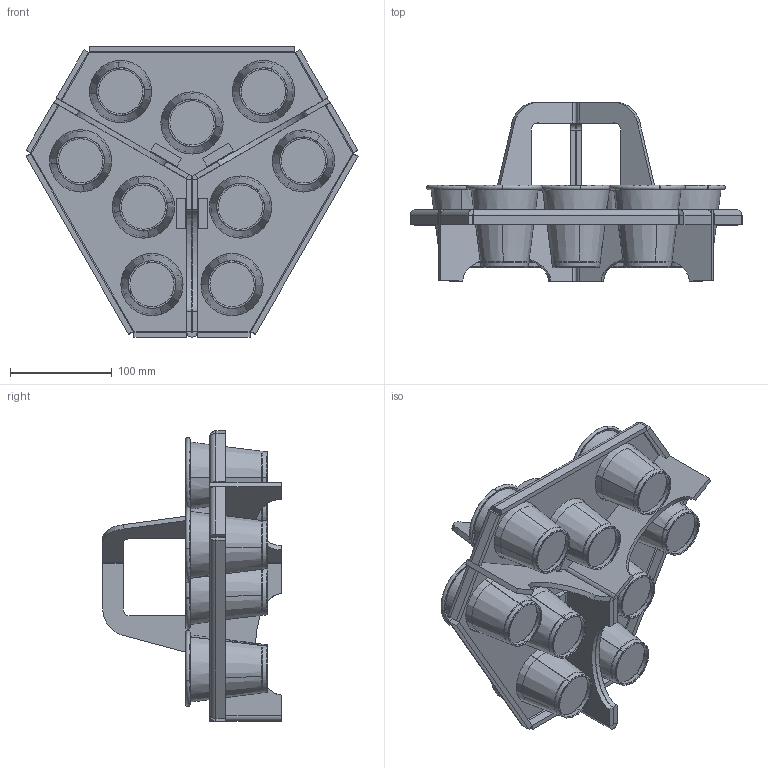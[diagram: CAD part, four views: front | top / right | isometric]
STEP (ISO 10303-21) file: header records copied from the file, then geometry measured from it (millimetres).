
FILE_DESCRIPTION (( 'STEP AP214' ), '1' );
FILE_NAME ('Assem1.STEP', '2018-05-28T20:56:43', ( '' ), ( '' ), 'SwSTEP 2.0', 'SolidWorks 2018', '' );
FILE_SCHEMA (( 'AUTOMOTIVE_DESIGN' ));
Length unit declared in the file: millimetre
Products named in the file (6): kpkh1; Assem1; Part56.stp; kpkh2; Part57.stp; Assembly5.stp
Assembly tree (13 placements, depth 3):
  Assem1
    kpkh1
    kpkh2
    Assembly5.stp  x9
      Part56.stp
      Part57.stp
Bounding box: 325.53 x 175 x 284.92 mm (x, y, z)
Volume: 1330464 mm3; surface area: 683518 mm2
Topology: 29 solids, 29 shells, 749 faces, 1841 edges, 1128 vertices
Faces by surface type: torus 306, plane 197, cone 180, cylinder 62, bspline 4
Entity records: 8857 total; most frequent: DIRECTION 1553, CARTESIAN_POINT 1515, ORIENTED_EDGE 1442, EDGE_CURVE 721, AXIS2_PLACEMENT_3D 542, LINE 469, VECTOR 469, VERTEX_POINT 440
